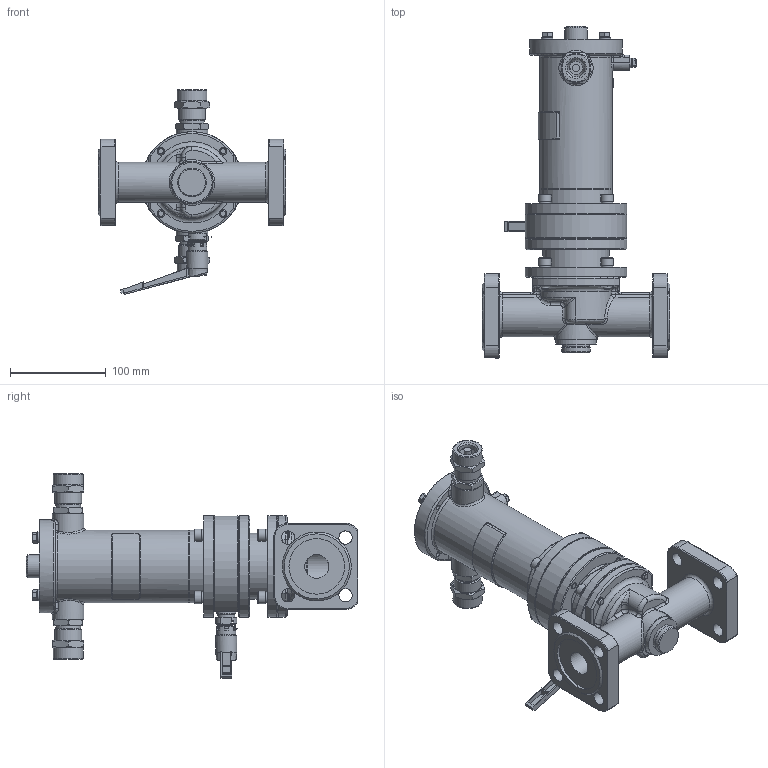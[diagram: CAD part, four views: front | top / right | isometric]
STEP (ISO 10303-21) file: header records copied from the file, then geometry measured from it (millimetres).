
FILE_DESCRIPTION(('STEP AP203'), '1');
FILE_NAME('捇迕-珅 DN25PN25-捔', '', ('UNSPECIFIED'), ('UNSPECIFIED'), 'C3D Converter', 'C3D Toolkit', '');
FILE_SCHEMA(('CONFIG_CONTROL_DESIGN'));
Length unit declared in the file: millimetre
Bounding box: 196 x 346.5 x 214 mm (x, y, z)
Volume: 1356927.1 mm3; surface area: 358485.5 mm2
Topology: 4 solids, 13 shells, 2844 faces, 7627 edges, 4926 vertices
Faces by surface type: plane 1231, cylinder 1168, cone 177, extrusion 108, torus 85, bspline 69, sphere 6
Full cylindrical faces by diameter (mm): 1 x2, 2.459 x1, 3 x1, 3.1 x1, 3.242 x1, 3.5 x2, 4 x2, 4.134 x1, 4.3 x1, 4.917 x6, 5 x2, 6 x13, 6.3 x1, 6.5 x1, 6.647 x4, 7 x1, 8 x17, 8.5 x4, 9 x9, 10 x3, 11 x1, 12 x6, 12.5 x1, 13 x10, 13.8 x1, 14 x9, 15 x1, 16 x1, 17 x1, 17.8 x1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
Entity records: 137795 total; most frequent: CARTESIAN_POINT 44114, DIRECTION 14752, ORIENTED_EDGE 14508, EDGE_CURVE 7254, AXIS2_PLACEMENT_3D 5488, VERTEX_POINT 5338, VECTOR 3776, LINE 3668
